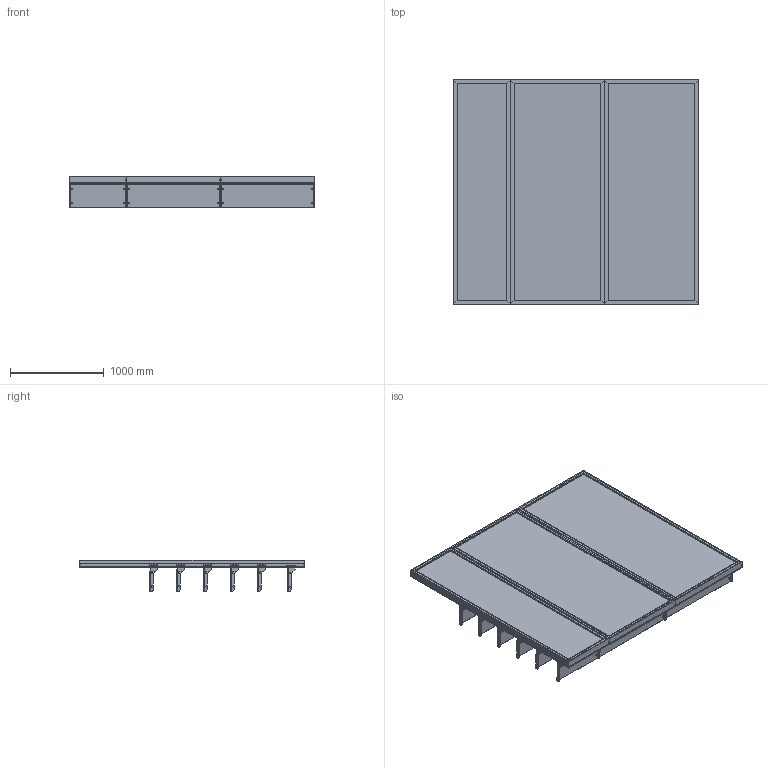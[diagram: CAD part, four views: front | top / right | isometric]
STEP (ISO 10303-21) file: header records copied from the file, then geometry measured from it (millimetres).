
FILE_DESCRIPTION (( 'STEP AP203' ), '1' );
FILE_NAME ('Flagship Clinic Retail Merchandising Wall - Glass Shelving.STEP', '2026-03-30T13:29:23', ( '' ), ( '' ), 'SwSTEP 2.0', 'SolidWorks 2025', '' );
FILE_SCHEMA (( 'CONFIG_CONTROL_DESIGN' ));
Length unit declared in the file: millimetre
Products named in the file (17): 0001-31-SA29.STEP; 0001-31-SA31 - 1005W Glass Shelf.STEP; 0001-31-GA10 - 1005W Slotted upbright; 0001-31-124.STEP; 0001-31-115.STEP; Flagship Clinic Retail Merchandising Wall - Glass Shelving; 0001-31-114.STEP; 0001-31-SA28 - 610W Glass Shelf_Assem5; Narrow Illuminated Beauty Merchandising Display - Glass Shelving_a; 0000-31-113.STEP; 0001-31-GA01 - 610W Slotted Upright; Wide Illuminated Salon Retail Display - Glass Shelving_Assem1; 0001-31-SA28 - 610W Glass Shelf.STEP; 0001-31-SA31 - 1005W Glass Shelf_Assem5; 0001-31-SA30.STEP; 0001-31-123.STEP; 0001-31-132.STEP
Assembly tree (54 placements, depth 6):
  Flagship Clinic Retail Merchandising Wall - Glass Shelving
    Wide Illuminated Salon Retail Display - Glass Shelving_Assem1  x2
      0001-31-GA10 - 1005W Slotted upbright
      0001-31-SA31 - 1005W Glass Shelf_Assem5
        0001-31-SA31 - 1005W Glass Shelf.STEP
          0001-31-SA29.STEP
            0000-31-113.STEP
            0001-31-114.STEP  x2
          0001-31-SA30.STEP
            0000-31-113.STEP
            0001-31-114.STEP  x2
          0001-31-132.STEP
          0001-31-124.STEP  x4
          0001-31-123.STEP  x8
    Narrow Illuminated Beauty Merchandising Display - Glass Shelving_a
      0001-31-GA01 - 610W Slotted Upright
      0001-31-SA28 - 610W Glass Shelf_Assem5  x6
        0001-31-SA28 - 610W Glass Shelf.STEP
          0001-31-SA29.STEP
            0000-31-113.STEP
            0001-31-114.STEP  x2
          0001-31-SA30.STEP
            0000-31-113.STEP
            0001-31-114.STEP  x2
          0001-31-115.STEP
          0001-31-123.STEP  x8
          0001-31-124.STEP  x4
Bounding box: 2621.23 x 2400 x 340.44 mm (x, y, z)
Volume: 50570849.1 mm3; surface area: 39859946.9 mm2
Topology: 322 solids, 322 shells, 6646 faces, 17580 edges, 11336 vertices
Faces by surface type: plane 4486, cylinder 1904, cone 256
Entity records: 46060 total; most frequent: CARTESIAN_POINT 8395, ORIENTED_EDGE 7938, DIRECTION 6315, EDGE_CURVE 3969, VECTOR 3687, LINE 3687, VERTEX_POINT 2626, EDGE_LOOP 1423
